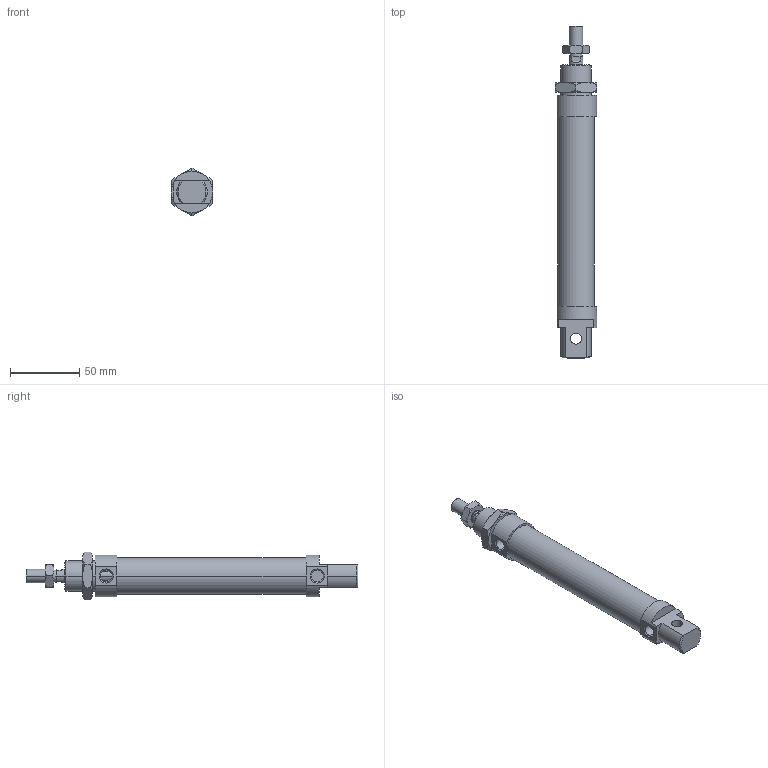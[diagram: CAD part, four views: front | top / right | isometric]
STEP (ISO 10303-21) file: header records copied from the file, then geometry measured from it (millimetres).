
FILE_DESCRIPTION((''),'2;1');
FILE_NAME('I:\DOC-EDP\Lib-3d\1200\CILINDRI\1280\1280_25_0100.stp','2003-04-07T18:00:18',('maffial1'),(''),'Autodesk Inventor (R) 6.0','Autodesk Inventor (R) 6.0','');
FILE_SCHEMA(('AUTOMOTIVE_DESIGN { 1 0 10303 214 1 1 1 1 }'));
Length unit declared in the file: millimetre
Products named in the file (5): 1280_25_0100; S1280_25_100; 1200_25_05; 1200_25_06; C1280_25_100
Assembly tree (4 placements, depth 2):
  1280_25_0100
    S1280_25_100
    1200_25_05
    1200_25_06
    C1280_25_100
Bounding box: 30 x 240 x 34.64 mm (x, y, z)
Volume: 115241.7 mm3; surface area: 32034.4 mm2
Topology: 4 solids, 4 shells, 124 faces, 281 edges, 170 vertices
Faces by surface type: plane 41, cone 40, cylinder 22, bspline 21
Entity records: 3808 total; most frequent: CARTESIAN_POINT 1031, DIRECTION 573, ORIENTED_EDGE 562, EDGE_CURVE 281, AXIS2_PLACEMENT_3D 236, VERTEX_POINT 170, EDGE_LOOP 137, FACE_OUTER_BOUND 124
